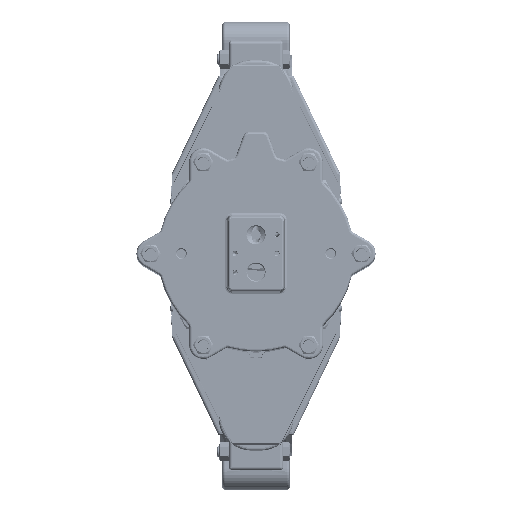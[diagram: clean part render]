
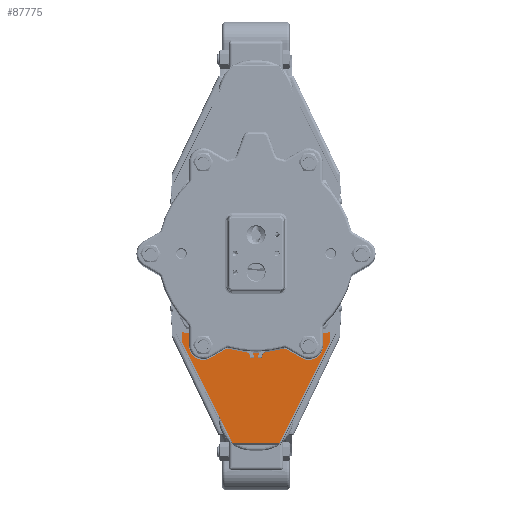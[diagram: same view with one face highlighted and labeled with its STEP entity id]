
A CAD part, top view. The second image highlights one B-rep face of the part: STEP entity #87775.
In plain terms, the highlighted planar face has unit normal (0, 0, 1).
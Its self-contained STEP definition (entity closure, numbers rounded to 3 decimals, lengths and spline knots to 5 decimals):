
#3406=PLANE('',#93404);
#7081=FACE_OUTER_BOUND('',#12478,.T.);
#12478=EDGE_LOOP('',(#60976,#60977,#60978,#60979,#60980,#60981));
#24904=LINE('',#128112,#31133);
#24908=LINE('',#128154,#31137);
#24909=LINE('',#128156,#31138);
#24910=LINE('',#128158,#31139);
#24911=LINE('',#128160,#31140);
#24912=LINE('',#128161,#31141);
#31133=VECTOR('',#103221,0.05001);
#31137=VECTOR('',#103227,0.12213);
#31138=VECTOR('',#103228,0.012);
#31139=VECTOR('',#103229,0.159);
#31140=VECTOR('',#103230,0.012);
#31141=VECTOR('',#103231,0.12213);
#37592=VERTEX_POINT('',#128100);
#37593=VERTEX_POINT('',#128111);
#37596=VERTEX_POINT('',#128153);
#37597=VERTEX_POINT('',#128155);
#37598=VERTEX_POINT('',#128157);
#37599=VERTEX_POINT('',#128159);
#46626=EDGE_CURVE('',#37592,#37593,#24904,.T.);
#46631=EDGE_CURVE('',#37596,#37592,#24908,.T.);
#46632=EDGE_CURVE('',#37597,#37596,#24909,.T.);
#46633=EDGE_CURVE('',#37598,#37597,#24910,.T.);
#46634=EDGE_CURVE('',#37598,#37599,#24911,.T.);
#46635=EDGE_CURVE('',#37599,#37593,#24912,.T.);
#60976=ORIENTED_EDGE('',*,*,#46626,.F.);
#60977=ORIENTED_EDGE('',*,*,#46631,.F.);
#60978=ORIENTED_EDGE('',*,*,#46632,.F.);
#60979=ORIENTED_EDGE('',*,*,#46633,.F.);
#60980=ORIENTED_EDGE('',*,*,#46634,.T.);
#60981=ORIENTED_EDGE('',*,*,#46635,.T.);
#87775=ADVANCED_FACE('',(#7081),#3406,.T.);
#93404=AXIS2_PLACEMENT_3D('',#128152,#103225,#103226);
#103221=DIRECTION('',(-1.,0.,0.));
#103225=DIRECTION('center_axis',(0.,0.,
1.));
#103226=DIRECTION('ref_axis',(1.,0.,0.));
#103227=DIRECTION('',(-0.446,-0.895,0.));
#103228=DIRECTION('',(0.,-1.,0.));
#103229=DIRECTION('',(1.,0.,0.));
#103230=DIRECTION('',(0.,-1.,0.));
#103231=DIRECTION('',(0.446,-0.895,0.));
#128100=CARTESIAN_POINT('',(0.02501,-0.20198,0.7822));
#128111=CARTESIAN_POINT('',(-0.02501,-0.20198,0.7822));
#128112=CARTESIAN_POINT('',(0.02501,-0.20198,0.7822));
#128152=CARTESIAN_POINT('Origin',(0.02996,-0.13262,
0.7822));
#128153=CARTESIAN_POINT('',(0.0795,-0.09268,0.7822));
#128154=CARTESIAN_POINT('',(0.0795,-0.09268,0.7822));
#128155=CARTESIAN_POINT('',(0.0795,-0.08068,0.7822));
#128156=CARTESIAN_POINT('',(0.0795,-0.08068,0.7822));
#128157=CARTESIAN_POINT('',(-0.0795,-0.08068,0.7822));
#128158=CARTESIAN_POINT('',(-0.0795,-0.08068,0.7822));
#128159=CARTESIAN_POINT('',(-0.0795,-0.09268,0.7822));
#128160=CARTESIAN_POINT('',(-0.0795,-0.08068,0.7822));
#128161=CARTESIAN_POINT('',(-0.0795,-0.09268,0.7822));
